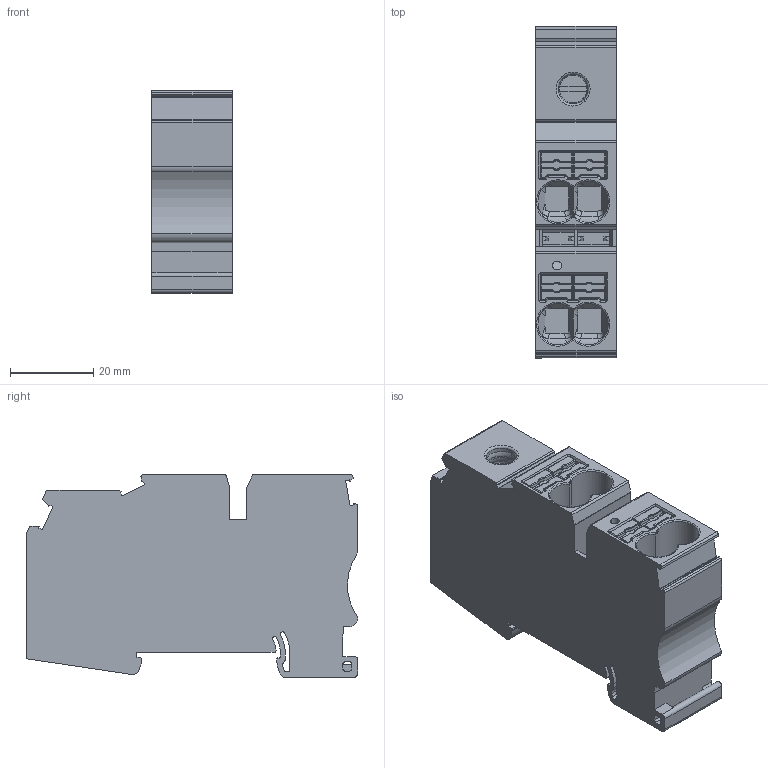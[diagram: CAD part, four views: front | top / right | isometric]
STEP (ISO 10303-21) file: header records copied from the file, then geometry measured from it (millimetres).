
FILE_DESCRIPTION(/* description */ (''),/* implementation_level */ '2;1');
FILE_NAME(/* name */ 'UPTU-35-4x10 ASSY.stp',/* time_stamp */ '2024-04-26T16:38:29+08:00',/* author */ (''),/* organization */ (''),/* preprocessor_version */ 'ST-DEVELOPER v16.7',/* originating_system */ 'SIEMENS PLM Software NX 12.0',/* authorisation */ '');
FILE_SCHEMA (('AUTOMOTIVE_DESIGN { 1 0 10303 214 3 1 1 1 }'));
Length unit declared in the file: millimetre
Products named in the file (1): Admi0EB4BAB8iyi4
Bounding box: 19.35 x 79.9 x 48.8 mm (x, y, z)
Volume: 44015.4 mm3; surface area: 29857.6 mm2
Topology: 1 solids, 7 shells, 1787 faces, 4851 edges, 3023 vertices
Faces by surface type: plane 937, cylinder 520, sphere 80, extrusion 80, torus 76, cone 72, bspline 22
Entity records: 58879 total; most frequent: CARTESIAN_POINT 13945, ORIENTED_EDGE 9520, DIRECTION 9203, EDGE_CURVE 4760, VECTOR 3177, LINE 3097, VERTEX_POINT 3023, AXIS2_PLACEMENT_3D 3013
